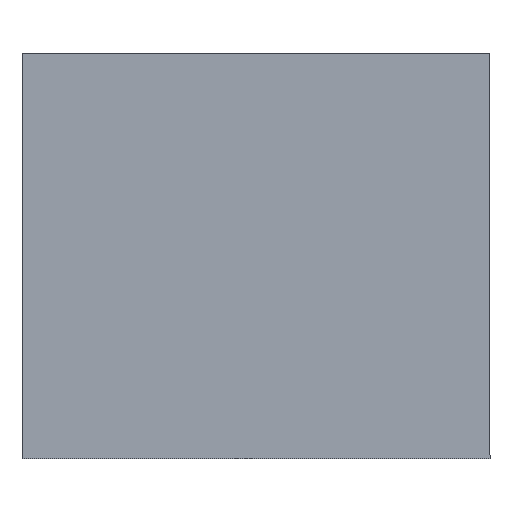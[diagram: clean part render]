
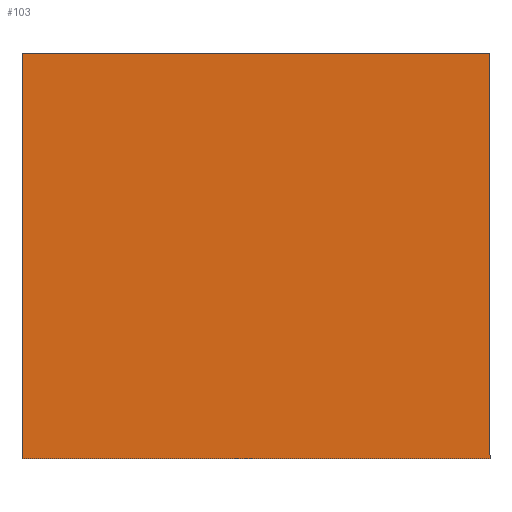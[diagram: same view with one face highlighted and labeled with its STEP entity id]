
A CAD part, top view. The second image highlights one B-rep face of the part: STEP entity #103.
In plain terms, the highlighted planar face has unit normal (0, 0, 1).
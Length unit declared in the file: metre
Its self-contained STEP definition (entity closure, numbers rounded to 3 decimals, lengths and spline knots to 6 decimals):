
#32=ORIENTED_EDGE('',*,*,#46,.T.);
#33=ORIENTED_EDGE('',*,*,#36,.T.);
#34=ORIENTED_EDGE('',*,*,#40,.T.);
#35=ORIENTED_EDGE('',*,*,#43,.T.);
#36=EDGE_CURVE('',#48,#49,#56,.T.);
#40=EDGE_CURVE('',#49,#52,#60,.T.);
#43=EDGE_CURVE('',#52,#54,#63,.F.);
#46=EDGE_CURVE('',#54,#48,#66,.F.);
#48=VERTEX_POINT('',#144);
#49=VERTEX_POINT('',#145);
#52=VERTEX_POINT('',#153);
#54=VERTEX_POINT('',#159);
#56=LINE('',#143,#68);
#60=LINE('',#152,#72);
#63=LINE('',#158,#75);
#66=LINE('',#164,#78);
#68=VECTOR('',#119,1.);
#72=VECTOR('',#125,1.);
#75=VECTOR('',#130,1.);
#78=VECTOR('',#135,1.);
#85=EDGE_LOOP('',(#32,#33,#34,#35));
#91=FACE_BOUND('',#85,.T.);
#97=PLANE('',#114);
#103=ADVANCED_FACE('',(#91),#97,.F.);
#114=AXIS2_PLACEMENT_3D('',#167,#139,#140);
#119=DIRECTION('',(0.,1.,0.));
#125=DIRECTION('',(-1.,0.,0.));
#130=DIRECTION('',(0.,1.,0.));
#135=DIRECTION('',(-1.,0.,0.));
#139=DIRECTION('',(0.,0.,-1.));
#140=DIRECTION('',(-1.,0.,0.));
#143=CARTESIAN_POINT('',(0.008398,0.01005,-0.03));
#144=CARTESIAN_POINT('',(0.008398,-0.00245,-0.03));
#145=CARTESIAN_POINT('',(0.008398,-0.00115,-0.03));
#152=CARTESIAN_POINT('',(0.018748,-0.00115,-0.03));
#153=CARTESIAN_POINT('',(0.006898,-0.00115,-0.03));
#158=CARTESIAN_POINT('',(0.006898,0.01005,-0.03));
#159=CARTESIAN_POINT('',(0.006898,-0.00245,-0.03));
#164=CARTESIAN_POINT('',(0.018748,-0.00245,-0.03));
#167=CARTESIAN_POINT('',(0.018748,0.01005,-0.03));
